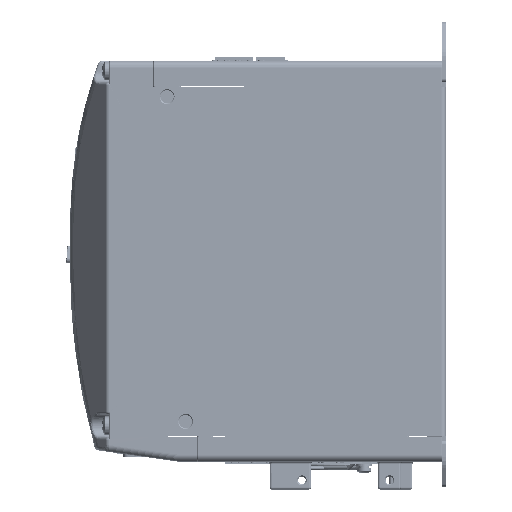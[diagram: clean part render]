
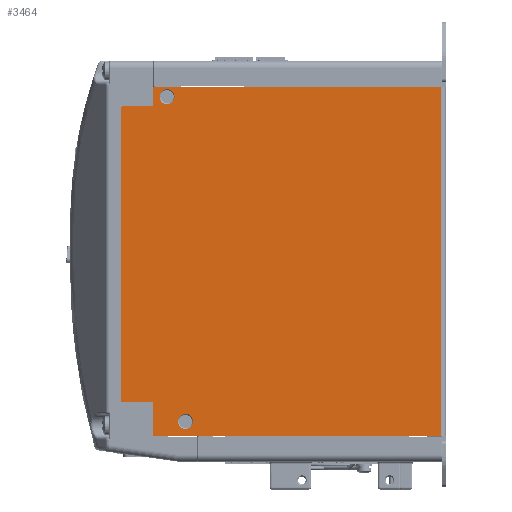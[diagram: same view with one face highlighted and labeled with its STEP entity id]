
A CAD part, left-side view. The second image highlights one B-rep face of the part: STEP entity #3464.
In plain terms, the highlighted planar face has unit normal (-1, 0, 0).
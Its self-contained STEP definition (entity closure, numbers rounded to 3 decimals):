
#1298=DIRECTION('',(0.,0.,1.));
#1299=VECTOR('',#1298,151.6);
#1300=CARTESIAN_POINT('',(-48.,0.5,-75.8));
#1301=LINE('',#1300,#1299);
#1313=CARTESIAN_POINT('',(-48.,111.5,-69.4));
#1314=DIRECTION('',(-1.,0.,0.));
#1315=DIRECTION('',(0.,1.,0.));
#1316=AXIS2_PLACEMENT_3D('',#1313,#1314,#1315);
#1321=CARTESIAN_POINT('',(-48.,111.5,-69.4));
#1322=DIRECTION('',(-1.,0.,0.));
#1323=DIRECTION('',(0.,-1.,0.));
#1324=AXIS2_PLACEMENT_3D('',#1321,#1322,#1323);
#1329=CARTESIAN_POINT('',(-48.,119.5,71.5));
#1330=DIRECTION('',(-1.,0.,0.));
#1331=DIRECTION('',(0.,1.,0.));
#1332=AXIS2_PLACEMENT_3D('',#1329,#1330,#1331);
#1337=CARTESIAN_POINT('',(-48.,119.5,71.5));
#1338=DIRECTION('',(-1.,0.,0.));
#1339=DIRECTION('',(0.,-1.,0.));
#1340=AXIS2_PLACEMENT_3D('',#1337,#1338,#1339);
#1345=CARTESIAN_POINT('',(-48.,125.1,75.3));
#1346=DIRECTION('',(-1.,0.,0.));
#1347=DIRECTION('',(0.,0.,1.));
#1348=AXIS2_PLACEMENT_3D('',#1345,#1346,#1347);
#1353=DIRECTION('',(0.,1.,0.));
#1354=VECTOR('',#1353,124.6);
#1355=CARTESIAN_POINT('',(-48.,0.5,75.8));
#1356=LINE('',#1355,#1354);
#1360=DIRECTION('',(0.,-1.,0.));
#1361=VECTOR('',#1360,124.6);
#1362=CARTESIAN_POINT('',(-48.,125.1,-75.8));
#1363=LINE('',#1362,#1361);
#1367=CARTESIAN_POINT('',(-48.,125.1,-75.3));
#1368=DIRECTION('',(-1.,0.,0.));
#1369=DIRECTION('',(0.,1.,0.));
#1370=AXIS2_PLACEMENT_3D('',#1367,#1368,#1369);
#1375=DIRECTION('',(0.,0.,-1.));
#1376=VECTOR('',#1375,14.3);
#1377=CARTESIAN_POINT('',(-48.,125.6,-61.));
#1378=LINE('',#1377,#1376);
#1382=DIRECTION('',(0.,-1.,0.));
#1383=VECTOR('',#1382,13.3);
#1384=CARTESIAN_POINT('',(-48.,138.9,-61.));
#1385=LINE('',#1384,#1383);
#1389=CARTESIAN_POINT('',(-48.,138.9,-60.5));
#1390=DIRECTION('',(-1.,0.,0.));
#1391=DIRECTION('',(0.,1.,0.));
#1392=AXIS2_PLACEMENT_3D('',#1389,#1390,#1391);
#1397=DIRECTION('',(0.,0.,-1.));
#1398=VECTOR('',#1397,127.3);
#1399=CARTESIAN_POINT('',(-48.,139.4,66.8));
#1400=LINE('',#1399,#1398);
#1404=CARTESIAN_POINT('',(-48.,138.9,66.8));
#1405=DIRECTION('',(-1.,0.,0.));
#1406=DIRECTION('',(0.,0.,1.));
#1407=AXIS2_PLACEMENT_3D('',#1404,#1405,#1406);
#1412=DIRECTION('',(0.,1.,0.));
#1413=VECTOR('',#1412,13.3);
#1414=CARTESIAN_POINT('',(-48.,125.6,67.3));
#1415=LINE('',#1414,#1413);
#1419=DIRECTION('',(0.,0.,-1.));
#1420=VECTOR('',#1419,8.);
#1421=CARTESIAN_POINT('',(-48.,125.6,75.3));
#1422=LINE('',#1421,#1420);
#2113=CARTESIAN_POINT('',(-48.,0.5,-75.8));
#2114=CARTESIAN_POINT('',(-48.,0.5,75.8));
#2115=VERTEX_POINT('',#2113);
#2116=VERTEX_POINT('',#2114);
#2161=CARTESIAN_POINT('',(-48.,114.75,-69.4));
#2162=CARTESIAN_POINT('',(-48.,108.25,-69.4));
#2163=VERTEX_POINT('',#2161);
#2164=VERTEX_POINT('',#2162);
#2169=CARTESIAN_POINT('',(-48.,122.75,71.5));
#2170=CARTESIAN_POINT('',(-48.,116.25,71.5));
#2171=VERTEX_POINT('',#2169);
#2172=VERTEX_POINT('',#2170);
#2265=CARTESIAN_POINT('',(-48.,125.6,67.3));
#2267=VERTEX_POINT('',#2265);
#2269=CARTESIAN_POINT('',(-48.,125.6,-61.));
#2271=VERTEX_POINT('',#2269);
#2349=CARTESIAN_POINT('',(-48.,125.1,75.8));
#2350=CARTESIAN_POINT('',(-48.,125.6,75.3));
#2351=VERTEX_POINT('',#2349);
#2352=VERTEX_POINT('',#2350);
#2357=CARTESIAN_POINT('',(-48.,138.9,67.3));
#2358=CARTESIAN_POINT('',(-48.,139.4,66.8));
#2359=VERTEX_POINT('',#2357);
#2360=VERTEX_POINT('',#2358);
#2365=CARTESIAN_POINT('',(-48.,139.4,-60.5));
#2366=CARTESIAN_POINT('',(-48.,138.9,-61.));
#2367=VERTEX_POINT('',#2365);
#2368=VERTEX_POINT('',#2366);
#2373=CARTESIAN_POINT('',(-48.,125.6,-75.3));
#2374=CARTESIAN_POINT('',(-48.,125.1,-75.8));
#2375=VERTEX_POINT('',#2373);
#2376=VERTEX_POINT('',#2374);
#3422=CARTESIAN_POINT('',(-48.,-1.5,87.9));
#3423=DIRECTION('',(-1.,0.,0.));
#3424=DIRECTION('',(0.,0.,1.));
#3425=AXIS2_PLACEMENT_3D('',#3422,#3423,#3424);
#3426=PLANE('',#3425);
#3428=ORIENTED_EDGE('',*,*,#3427,.F.);
#3430=ORIENTED_EDGE('',*,*,#3429,.F.);
#3431=ORIENTED_EDGE('',*,*,#3416,.F.);
#3433=ORIENTED_EDGE('',*,*,#3432,.F.);
#3435=ORIENTED_EDGE('',*,*,#3434,.F.);
#3437=ORIENTED_EDGE('',*,*,#3436,.F.);
#3439=ORIENTED_EDGE('',*,*,#3438,.F.);
#3441=ORIENTED_EDGE('',*,*,#3440,.F.);
#3443=ORIENTED_EDGE('',*,*,#3442,.F.);
#3445=ORIENTED_EDGE('',*,*,#3444,.F.);
#3447=ORIENTED_EDGE('',*,*,#3446,.F.);
#3449=ORIENTED_EDGE('',*,*,#3448,.F.);
#3450=EDGE_LOOP('',(#3428,#3430,#3431,#3433,#3435,#3437,#3439,#3441,#3443,#3445,
#3447,#3449));
#3451=FACE_OUTER_BOUND('',#3450,.F.);
#3453=ORIENTED_EDGE('',*,*,#3452,.T.);
#3455=ORIENTED_EDGE('',*,*,#3454,.T.);
#3456=EDGE_LOOP('',(#3453,#3455));
#3457=FACE_BOUND('',#3456,.F.);
#3459=ORIENTED_EDGE('',*,*,#3458,.T.);
#3461=ORIENTED_EDGE('',*,*,#3460,.T.);
#3462=EDGE_LOOP('',(#3459,#3461));
#3463=FACE_BOUND('',#3462,.F.);
#3464=ADVANCED_FACE('',(#3451,#3457,#3463),#3426,.T.);
#1317=CIRCLE('',#1316,3.25);
#1325=CIRCLE('',#1324,3.25);
#1333=CIRCLE('',#1332,3.25);
#1341=CIRCLE('',#1340,3.25);
#1349=CIRCLE('',#1348,0.5);
#1371=CIRCLE('',#1370,0.5);
#1393=CIRCLE('',#1392,0.5);
#1408=CIRCLE('',#1407,0.5);
#3416=EDGE_CURVE('',#2115,#2116,#1301,.T.);
#3427=EDGE_CURVE('',#2351,#2352,#1349,.T.);
#3429=EDGE_CURVE('',#2116,#2351,#1356,.T.);
#3432=EDGE_CURVE('',#2376,#2115,#1363,.T.);
#3434=EDGE_CURVE('',#2375,#2376,#1371,.T.);
#3436=EDGE_CURVE('',#2271,#2375,#1378,.T.);
#3438=EDGE_CURVE('',#2368,#2271,#1385,.T.);
#3440=EDGE_CURVE('',#2367,#2368,#1393,.T.);
#3442=EDGE_CURVE('',#2360,#2367,#1400,.T.);
#3444=EDGE_CURVE('',#2359,#2360,#1408,.T.);
#3446=EDGE_CURVE('',#2267,#2359,#1415,.T.);
#3448=EDGE_CURVE('',#2352,#2267,#1422,.T.);
#3452=EDGE_CURVE('',#2163,#2164,#1317,.T.);
#3454=EDGE_CURVE('',#2164,#2163,#1325,.T.);
#3458=EDGE_CURVE('',#2171,#2172,#1333,.T.);
#3460=EDGE_CURVE('',#2172,#2171,#1341,.T.);
